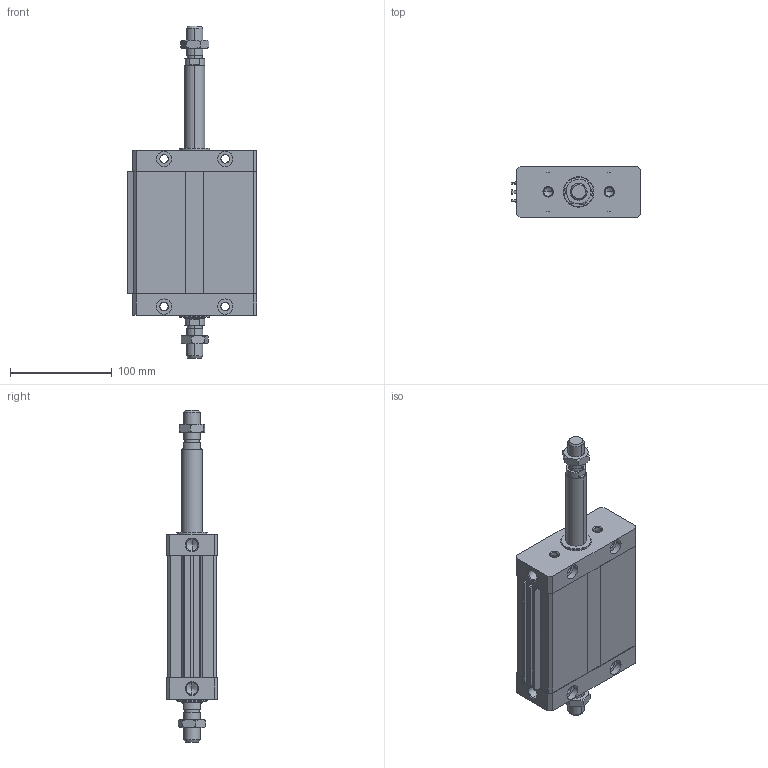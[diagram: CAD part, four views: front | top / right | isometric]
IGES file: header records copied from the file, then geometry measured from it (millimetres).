
Global section: file name: No Iges File Name specified; native system: Autodesk Inventor 2011; preprocessor: AutoDesk Inventor Iges Exporter R2011; author: airolcr1; date: 20101213.153507; units: millimetre
Bounding box: 126.75 x 50 x 326 mm (x, y, z)
Volume: 757644.5 mm3; surface area: 168096.6 mm2
Topology: 6 solids, 6 shells, 280 faces, 664 edges, 396 vertices
Faces by surface type: bspline 114, plane 98, cone 36, cylinder 18, revolution 14
